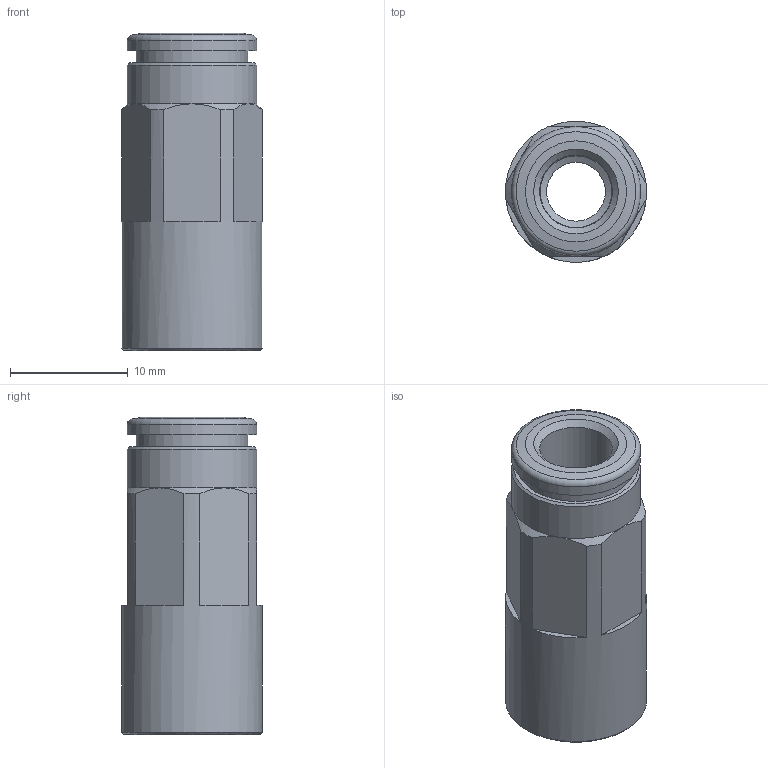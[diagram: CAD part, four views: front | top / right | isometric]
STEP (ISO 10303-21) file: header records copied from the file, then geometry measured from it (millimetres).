
FILE_DESCRIPTION(('Bauteilbeschreibung','HiCAD-Model','HiCAD-STEP-TRANSLATION','Bauteilbeschreibung'),'2;1');
FILE_NAME('B:/ABGLEICH/ZEICHNUNGEN/STEP FÜR INTERNET/STEP/200205_IPSO_02_6_1-8.STP','2011-07-15T08:11:33+00:00',('Konstrukteur'),('Konstrukteur Firma GmbH'),' HiCAD neXt 2008, Step 3.1.1401.2J ','HiCAD neXt 2008','confidential');
FILE_SCHEMA(('AUTOMOTIVE_DESIGN { 1 2 10303 214 0 1 1 1 }'));
Length unit declared in the file: millimetre
Products named in the file (5): A00205_IPSO_02_6_1_8; DR6_1_NEU; R200205_N; R2002050N; G 1_8
Assembly tree (4 placements, depth 3):
  A00205_IPSO_02_6_1_8
    DR6_1_NEU
    R200205_N
    R2002050N
      G 1_8
Bounding box: 11.99 x 11.98 x 27 mm (x, y, z)
Volume: 1588.8 mm3; surface area: 2619.1 mm2
Topology: 3 solids, 3 shells, 54 faces, 117 edges, 71 vertices
Faces by surface type: plane 20, cone 19, cylinder 14, torus 1
Full cylindrical faces by diameter (mm): 5 x1, 6.1 x1, 6.2 x1, 8.3 x1, 8.566 x2, 9 x1, 9.5 x1, 9.6 x1, 9.728 x2, 11 x2, 12 x1
Entity records: 1953 total; most frequent: DIRECTION 248, CARTESIAN_POINT 241, ORIENTED_EDGE 166, AXIS2_PLACEMENT_3D 115, EDGE_LOOP 90, COLOUR_RGB 86, PRESENTATION_STYLE_ASSIGNMENT 86, CURVE_STYLE 83
